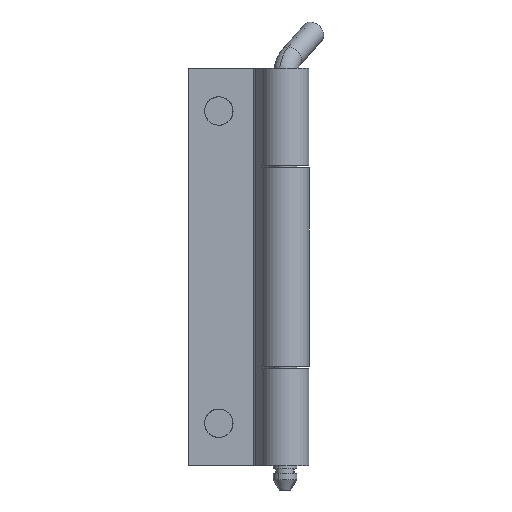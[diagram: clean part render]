
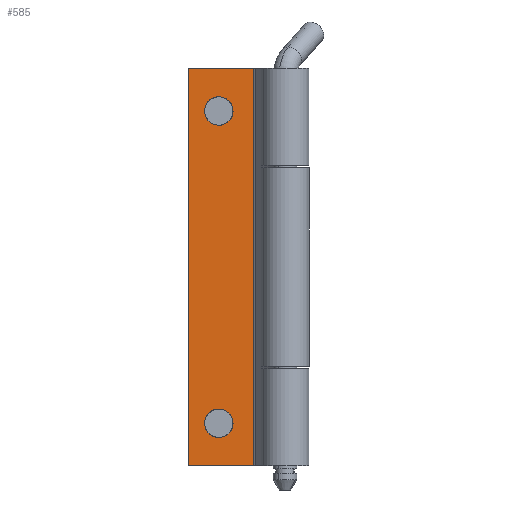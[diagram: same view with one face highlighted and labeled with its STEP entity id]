
A CAD part, front view. The second image highlights one B-rep face of the part: STEP entity #585.
In plain terms, the highlighted planar face has unit normal (0, -1, 0).
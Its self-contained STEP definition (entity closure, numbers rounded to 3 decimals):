
#2 = VERTEX_POINT ( 'NONE', #747 ) ;
#13 = EDGE_CURVE ( 'NONE', #2, #197, #789, .T. ) ;
#31 = VERTEX_POINT ( 'NONE', #819 ) ;
#197 = VERTEX_POINT ( 'NONE', #1157 ) ;
#241 = VERTEX_POINT ( 'NONE', #1202 ) ;
#242 = EDGE_CURVE ( 'NONE', #540, #241, #1201, .T. ) ;
#458 = VERTEX_POINT ( 'NONE', #1652 ) ;
#508 = EDGE_CURVE ( 'NONE', #537, #458, #1707, .T. ) ;
#509 = EDGE_LOOP ( 'NONE', ( #565, #567 ) ) ;
#537 = VERTEX_POINT ( 'NONE', #1794 ) ;
#538 = EDGE_CURVE ( 'NONE', #458, #537, #1793, .T. ) ;
#540 = VERTEX_POINT ( 'NONE', #1788 ) ;
#564 = ORIENTED_EDGE ( 'NONE', *, *, #538, .F. ) ;
#565 = ORIENTED_EDGE ( 'NONE', *, *, #566, .F. ) ;
#566 = EDGE_CURVE ( 'NONE', #241, #540, #1822, .T. ) ;
#567 = ORIENTED_EDGE ( 'NONE', *, *, #242, .F. ) ;
#568 = EDGE_LOOP ( 'NONE', ( #569, #571, #573, #574 ) ) ;
#569 = ORIENTED_EDGE ( 'NONE', *, *, #570, .T. ) ;
#570 = EDGE_CURVE ( 'NONE', #580, #31, #1817, .T. ) ;
#571 = ORIENTED_EDGE ( 'NONE', *, *, #572, .F. ) ;
#572 = EDGE_CURVE ( 'NONE', #197, #31, #1813, .T. ) ;
#573 = ORIENTED_EDGE ( 'NONE', *, *, #13, .F. ) ;
#574 = ORIENTED_EDGE ( 'NONE', *, *, #582, .T. ) ;
#580 = VERTEX_POINT ( 'NONE', #1859 ) ;
#582 = EDGE_CURVE ( 'NONE', #2, #580, #1858, .T. ) ;
#585 = ADVANCED_FACE ( 'NONE', ( #1854, #1853, #1852 ), #1851, .F. ) ;
#586 = EDGE_LOOP ( 'NONE', ( #587, #564 ) ) ;
#587 = ORIENTED_EDGE ( 'NONE', *, *, #508, .F. ) ;
#747 = CARTESIAN_POINT ( 'NONE',  ( 0., 0., 84. ) ) ;
#786 = DIRECTION ( 'NONE',  ( 1., 0., 0. ) ) ;
#787 = VECTOR ( 'NONE', #786, 1000. ) ;
#788 = CARTESIAN_POINT ( 'NONE',  ( 0., 0., 84. ) ) ;
#789 = LINE ( 'NONE', #788, #787 ) ;
#819 = CARTESIAN_POINT ( 'NONE',  ( 13.75, 0., 0. ) ) ;
#1157 = CARTESIAN_POINT ( 'NONE',  ( 13.75, 0., 84. ) ) ;
#1197 = DIRECTION ( 'NONE',  ( 0., 0., -1. ) ) ;
#1198 = DIRECTION ( 'NONE',  ( 0., -1., 0. ) ) ;
#1199 = CARTESIAN_POINT ( 'NONE',  ( 6.5, 0., 75. ) ) ;
#1200 = AXIS2_PLACEMENT_3D ( 'NONE', #1199, #1198, #1197 ) ;
#1201 = CIRCLE ( 'NONE', #1200, 3. ) ;
#1202 = CARTESIAN_POINT ( 'NONE',  ( 6.5, 0., 72. ) ) ;
#1652 = CARTESIAN_POINT ( 'NONE',  ( 6.5, 0., 12. ) ) ;
#1703 = DIRECTION ( 'NONE',  ( 0., 0., 1. ) ) ;
#1704 = DIRECTION ( 'NONE',  ( 0., -1., 0. ) ) ;
#1705 = CARTESIAN_POINT ( 'NONE',  ( 6.5, 0., 9. ) ) ;
#1706 = AXIS2_PLACEMENT_3D ( 'NONE', #1705, #1704, #1703 ) ;
#1707 = CIRCLE ( 'NONE', #1706, 3. ) ;
#1788 = CARTESIAN_POINT ( 'NONE',  ( 6.5, 0., 78. ) ) ;
#1789 = DIRECTION ( 'NONE',  ( 0., 0., 1. ) ) ;
#1790 = DIRECTION ( 'NONE',  ( 0., -1., 0. ) ) ;
#1791 = CARTESIAN_POINT ( 'NONE',  ( 6.5, 0., 9. ) ) ;
#1792 = AXIS2_PLACEMENT_3D ( 'NONE', #1791, #1790, #1789 ) ;
#1793 = CIRCLE ( 'NONE', #1792, 3. ) ;
#1794 = CARTESIAN_POINT ( 'NONE',  ( 6.5, 0., 6. ) ) ;
#1810 = DIRECTION ( 'NONE',  ( 0., 0., -1. ) ) ;
#1811 = VECTOR ( 'NONE', #1810, 1000. ) ;
#1812 = CARTESIAN_POINT ( 'NONE',  ( 13.75, 0., 84. ) ) ;
#1813 = LINE ( 'NONE', #1812, #1811 ) ;
#1814 = DIRECTION ( 'NONE',  ( 1., 0., 0. ) ) ;
#1815 = VECTOR ( 'NONE', #1814, 1000. ) ;
#1816 = CARTESIAN_POINT ( 'NONE',  ( 0., 0., 0. ) ) ;
#1817 = LINE ( 'NONE', #1816, #1815 ) ;
#1818 = DIRECTION ( 'NONE',  ( 0., 0., -1. ) ) ;
#1819 = DIRECTION ( 'NONE',  ( 0., -1., 0. ) ) ;
#1820 = CARTESIAN_POINT ( 'NONE',  ( 6.5, 0., 75. ) ) ;
#1821 = AXIS2_PLACEMENT_3D ( 'NONE', #1820, #1819, #1818 ) ;
#1822 = CIRCLE ( 'NONE', #1821, 3. ) ;
#1847 = DIRECTION ( 'NONE',  ( 0., 0., 1. ) ) ;
#1848 = DIRECTION ( 'NONE',  ( 0., 1., 0. ) ) ;
#1849 = CARTESIAN_POINT ( 'NONE',  ( 0., 0., 84. ) ) ;
#1850 = AXIS2_PLACEMENT_3D ( 'NONE', #1849, #1848, #1847 ) ;
#1851 = PLANE ( 'NONE',  #1850 ) ;
#1852 = FACE_OUTER_BOUND ( 'NONE', #568, .T. ) ;
#1853 = FACE_BOUND ( 'NONE', #509, .T. ) ;
#1854 = FACE_BOUND ( 'NONE', #586, .T. ) ;
#1855 = DIRECTION ( 'NONE',  ( 0., 0., -1. ) ) ;
#1856 = VECTOR ( 'NONE', #1855, 1000. ) ;
#1857 = CARTESIAN_POINT ( 'NONE',  ( 0., 0., 84. ) ) ;
#1858 = LINE ( 'NONE', #1857, #1856 ) ;
#1859 = CARTESIAN_POINT ( 'NONE',  ( 0., 0., 0. ) ) ;
